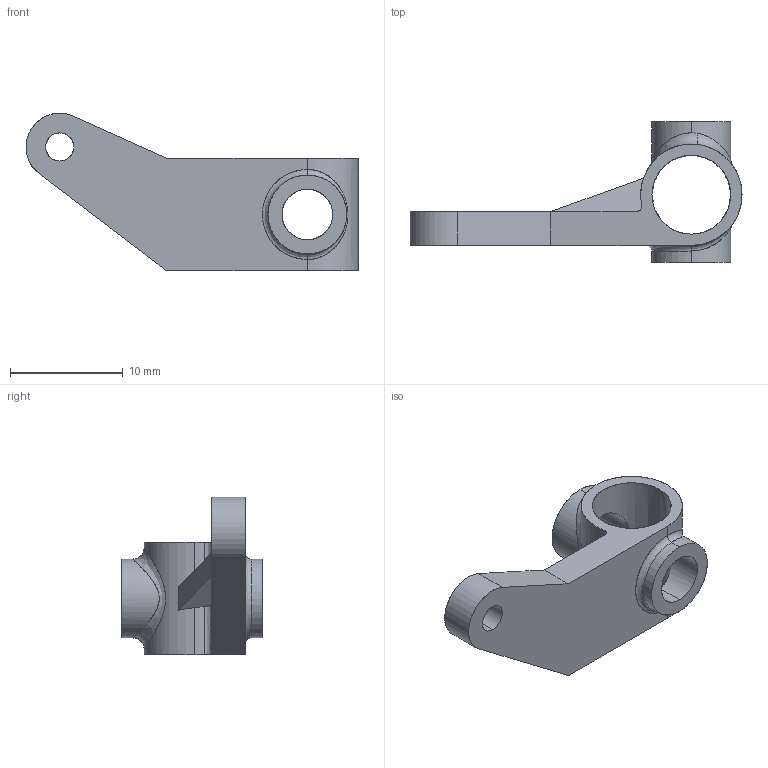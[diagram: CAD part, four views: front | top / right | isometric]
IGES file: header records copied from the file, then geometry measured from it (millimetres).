
Start section: SolidWorks IGES file using analytic representation for surfaces
Global section: file name: C:\Documents and Settings\Pc\Escritorio\Modelos 3D\Capítulo 6 (Fatiga)\PRACTICAS PROPUESTAS\P-8\p-8.IGS; native system: SolidWorks 2010; preprocessor: SolidWorks 2010; author: Pc; date: 100623.114432; units: millimetre
Bounding box: 29.5 x 12.5 x 14 mm (x, y, z)
Surface area: 1192.4 mm2 (no closed solid volume)
Topology: 0 solids, 0 shells, 34 faces, 775 edges, 775 vertices
Faces by surface type: revolution 19, bspline 15
